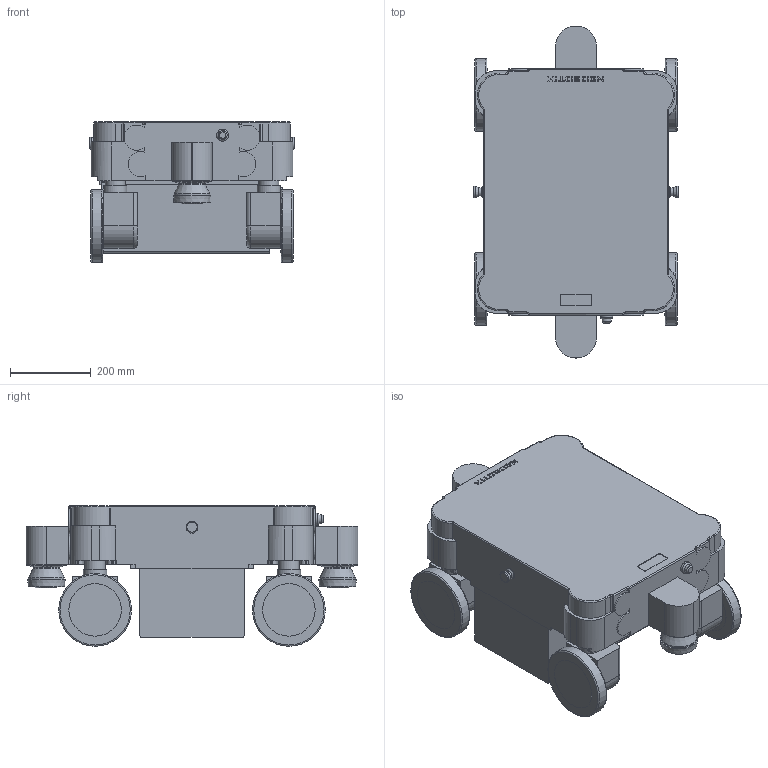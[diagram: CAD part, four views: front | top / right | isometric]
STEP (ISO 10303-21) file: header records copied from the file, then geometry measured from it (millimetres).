
FILE_DESCRIPTION(/* description */ (''),/* implementation_level */ '2;1');
FILE_NAME(/* name */ 'C:\Users\flv\Desktop\MPO-700_V2-4-5_2020-10-23.stp',/* time_stamp */ '2020-10-23T08:42:41+02:00',/* author */ ('flv'),/* organization */ (''),/* preprocessor_version */ 'ST-DEVELOPER v16.5',/* originating_system */ 'Autodesk Inventor 2017',/* authorisation */ '');
FILE_SCHEMA (('AUTOMOTIVE_DESIGN { 1 0 10303 214 3 1 1 }'));
Length unit declared in the file: millimetre
Products named in the file (1): MPO-700 V2.4.5 Simplified Complete
Bounding box: 505.3 x 822 x 347.95 mm (x, y, z)
Volume: 70826500.4 mm3; surface area: 2180663.1 mm2
Topology: 1 solids, 1 shells, 518 faces, 1299 edges, 825 vertices
Faces by surface type: plane 281, cylinder 163, torus 37, bspline 24, cone 13
Full cylindrical faces by diameter (mm): 19.819 x2, 22 x1, 28 x2, 28.5 x1, 30 x5, 50 x4, 58 x4, 66.231 x2, 88.807 x2, 97.4 x2, 130 x8, 180 x4
Entity records: 15866 total; most frequent: CARTESIAN_POINT 3420, DIRECTION 2557, ORIENTED_EDGE 2444, EDGE_CURVE 1222, AXIS2_PLACEMENT_3D 888, VERTEX_POINT 823, LINE 781, VECTOR 781
